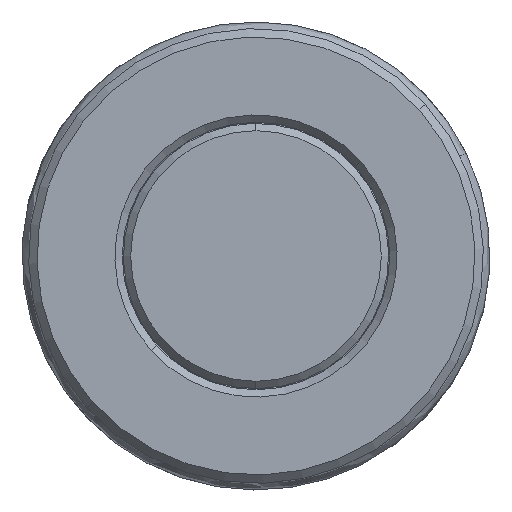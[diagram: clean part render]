
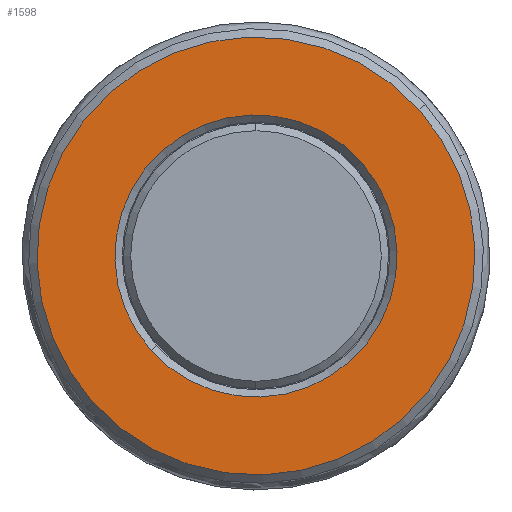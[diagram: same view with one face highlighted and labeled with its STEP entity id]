
A CAD part, left-side view. The second image highlights one B-rep face of the part: STEP entity #1598.
In plain terms, the highlighted planar face has unit normal (-1, 0, 0).
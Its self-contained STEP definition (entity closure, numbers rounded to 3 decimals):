
#79 = DIRECTION ( 'NONE',  ( 1., 0., 0. ) ) ;
#178 = VERTEX_POINT ( 'NONE', #2238 ) ;
#202 = CARTESIAN_POINT ( 'NONE',  ( 0., 0., 0. ) ) ;
#536 = CIRCLE ( 'NONE', #3912, 3.35 ) ;
#894 = DIRECTION ( 'NONE',  ( 0., 0.744, -0.668 ) ) ;
#932 = ORIENTED_EDGE ( 'NONE', *, *, #2894, .T. ) ;
#1132 = DIRECTION ( 'NONE',  ( 1., 0., 0. ) ) ;
#1150 = CARTESIAN_POINT ( 'NONE',  ( 0., 3.87, -3.474 ) ) ;
#1307 = CARTESIAN_POINT ( 'NONE',  ( 0., 0., 0. ) ) ;
#1382 = CIRCLE ( 'NONE', #1887, 5.2 ) ;
#1525 = DIRECTION ( 'NONE',  ( -1., 0., 0. ) ) ;
#1598 = ADVANCED_FACE ( 'NONE', ( #8879, #2026 ), #4565, .F. ) ;
#1887 = AXIS2_PLACEMENT_3D ( 'NONE', #5641, #1525, #6333 ) ;
#2003 = DIRECTION ( 'NONE',  ( 0., 0.744, -0.668 ) ) ;
#2026 = FACE_BOUND ( 'NONE', #5457, .T. ) ;
#2124 = CARTESIAN_POINT ( 'NONE',  ( 0., -3.87, 3.474 ) ) ;
#2238 = CARTESIAN_POINT ( 'NONE',  ( 0., -2.493, 2.238 ) ) ;
#2341 = CIRCLE ( 'NONE', #4845, 3.35 ) ;
#2492 = VERTEX_POINT ( 'NONE', #2124 ) ;
#2894 = EDGE_CURVE ( 'NONE', #178, #3924, #2341, .T. ) ;
#3157 = ORIENTED_EDGE ( 'NONE', *, *, #6283, .T. ) ;
#3912 = AXIS2_PLACEMENT_3D ( 'NONE', #4206, #79, #4896 ) ;
#3924 = VERTEX_POINT ( 'NONE', #7607 ) ;
#4152 = ORIENTED_EDGE ( 'NONE', *, *, #8814, .T. ) ;
#4206 = CARTESIAN_POINT ( 'NONE',  ( 0., 0., 0. ) ) ;
#4565 = PLANE ( 'NONE',  #6624 ) ;
#4778 = EDGE_LOOP ( 'NONE', ( #7307, #4152 ) ) ;
#4845 = AXIS2_PLACEMENT_3D ( 'NONE', #1307, #6111, #2003 ) ;
#4896 = DIRECTION ( 'NONE',  ( 0., 0.744, -0.668 ) ) ;
#5008 = DIRECTION ( 'NONE',  ( -1., 0., 0. ) ) ;
#5237 = DIRECTION ( 'NONE',  ( 0., 0.744, -0.668 ) ) ;
#5457 = EDGE_LOOP ( 'NONE', ( #932, #3157 ) ) ;
#5592 = CIRCLE ( 'NONE', #6212, 5.2 ) ;
#5641 = CARTESIAN_POINT ( 'NONE',  ( 0., 0., 0. ) ) ;
#6111 = DIRECTION ( 'NONE',  ( 1., 0., 0. ) ) ;
#6212 = AXIS2_PLACEMENT_3D ( 'NONE', #202, #5008, #894 ) ;
#6283 = EDGE_CURVE ( 'NONE', #3924, #178, #536, .T. ) ;
#6333 = DIRECTION ( 'NONE',  ( 0., 0.744, -0.668 ) ) ;
#6372 = EDGE_CURVE ( 'NONE', #7092, #2492, #5592, .T. ) ;
#6624 = AXIS2_PLACEMENT_3D ( 'NONE', #7171, #1132, #5237 ) ;
#7092 = VERTEX_POINT ( 'NONE', #1150 ) ;
#7171 = CARTESIAN_POINT ( 'NONE',  ( 0., 0., 0. ) ) ;
#7307 = ORIENTED_EDGE ( 'NONE', *, *, #6372, .T. ) ;
#7607 = CARTESIAN_POINT ( 'NONE',  ( 0., 2.493, -2.238 ) ) ;
#8814 = EDGE_CURVE ( 'NONE', #2492, #7092, #1382, .T. ) ;
#8879 = FACE_OUTER_BOUND ( 'NONE', #4778, .T. ) ;
